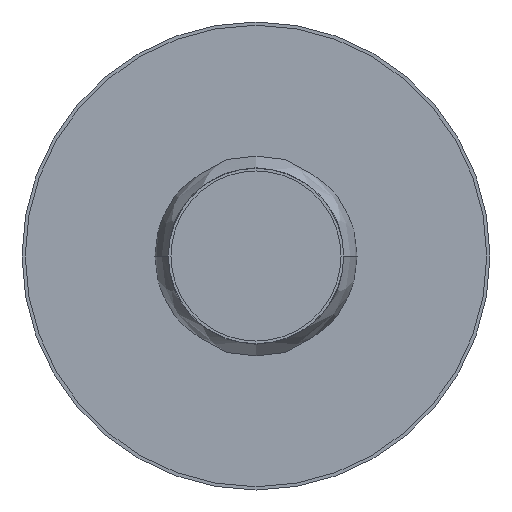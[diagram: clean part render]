
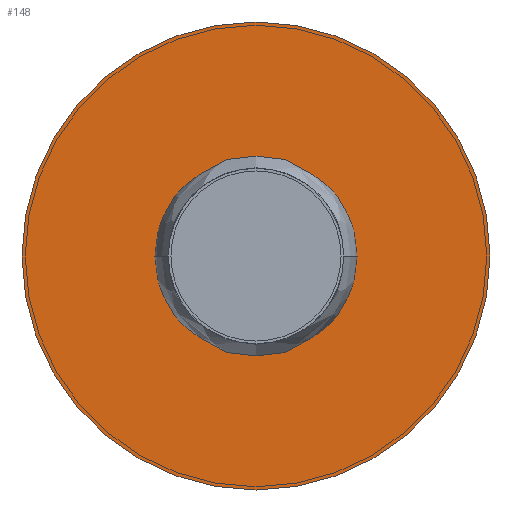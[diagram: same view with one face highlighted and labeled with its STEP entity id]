
A CAD part, front view. The second image highlights one B-rep face of the part: STEP entity #148.
In plain terms, the highlighted planar face has unit normal (0, -1, 0).
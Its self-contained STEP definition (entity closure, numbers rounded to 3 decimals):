
#8 = CIRCLE ( 'NONE', #966, 257.5 ) ;
#10 = VERTEX_POINT ( 'NONE', #1253 ) ;
#80 = PLANE ( 'NONE',  #1262 ) ;
#88 = VERTEX_POINT ( 'NONE', #258 ) ;
#135 = EDGE_CURVE ( 'NONE', #745, #564, #885, .T. ) ;
#145 = CARTESIAN_POINT ( 'NONE',  ( 1572.972, 966.33, 0. ) ) ;
#148 = ADVANCED_FACE ( 'NONE', ( #188, #382 ), #80, .T. ) ;
#188 = FACE_OUTER_BOUND ( 'NONE', #951, .T. ) ;
#258 = CARTESIAN_POINT ( 'NONE',  ( 1572.972, 966.33, -7.5 ) ) ;
#281 = EDGE_CURVE ( 'NONE', #564, #745, #8, .T. ) ;
#290 = CARTESIAN_POINT ( 'NONE',  ( 1565.472, 966.33, 0. ) ) ;
#303 = DIRECTION ( 'NONE',  ( 0., 0., -1. ) ) ;
#375 = EDGE_CURVE ( 'NONE', #88, #10, #791, .T. ) ;
#382 = FACE_BOUND ( 'NONE', #428, .T. ) ;
#383 = AXIS2_PLACEMENT_3D ( 'NONE', #145, #1257, #631 ) ;
#403 = CARTESIAN_POINT ( 'NONE',  ( 1572.972, 966.33, 0. ) ) ;
#428 = EDGE_LOOP ( 'NONE', ( #1041, #1215 ) ) ;
#564 = VERTEX_POINT ( 'NONE', #848 ) ;
#596 = CARTESIAN_POINT ( 'NONE',  ( 1572.972, 966.33, 0. ) ) ;
#623 = CIRCLE ( 'NONE', #383, 7.5 ) ;
#631 = DIRECTION ( 'NONE',  ( 0., 0., -1. ) ) ;
#655 = AXIS2_PLACEMENT_3D ( 'NONE', #596, #688, #303 ) ;
#661 = DIRECTION ( 'NONE',  ( 0., 0., -1. ) ) ;
#671 = EDGE_CURVE ( 'NONE', #10, #88, #623, .T. ) ;
#672 = DIRECTION ( 'NONE',  ( 0., 0., -1. ) ) ;
#688 = DIRECTION ( 'NONE',  ( 0., -1., 0. ) ) ;
#732 = CARTESIAN_POINT ( 'NONE',  ( 1572.972, 966.33, -257.5 ) ) ;
#745 = VERTEX_POINT ( 'NONE', #732 ) ;
#788 = DIRECTION ( 'NONE',  ( 0., 0., -1. ) ) ;
#791 = CIRCLE ( 'NONE', #655, 7.5 ) ;
#816 = ORIENTED_EDGE ( 'NONE', *, *, #281, .T. ) ;
#848 = CARTESIAN_POINT ( 'NONE',  ( 1572.972, 966.33, 257.5 ) ) ;
#882 = DIRECTION ( 'NONE',  ( 0., -1., 0. ) ) ;
#885 = CIRCLE ( 'NONE', #982, 257.5 ) ;
#951 = EDGE_LOOP ( 'NONE', ( #1094, #816 ) ) ;
#966 = AXIS2_PLACEMENT_3D ( 'NONE', #403, #882, #788 ) ;
#974 = DIRECTION ( 'NONE',  ( 0., -1., 0. ) ) ;
#982 = AXIS2_PLACEMENT_3D ( 'NONE', #1075, #1277, #672 ) ;
#1041 = ORIENTED_EDGE ( 'NONE', *, *, #375, .F. ) ;
#1075 = CARTESIAN_POINT ( 'NONE',  ( 1572.972, 966.33, 0. ) ) ;
#1094 = ORIENTED_EDGE ( 'NONE', *, *, #135, .T. ) ;
#1215 = ORIENTED_EDGE ( 'NONE', *, *, #671, .F. ) ;
#1253 = CARTESIAN_POINT ( 'NONE',  ( 1572.972, 966.33, 7.5 ) ) ;
#1257 = DIRECTION ( 'NONE',  ( 0., -1., 0. ) ) ;
#1262 = AXIS2_PLACEMENT_3D ( 'NONE', #290, #974, #661 ) ;
#1277 = DIRECTION ( 'NONE',  ( 0., -1., 0. ) ) ;
